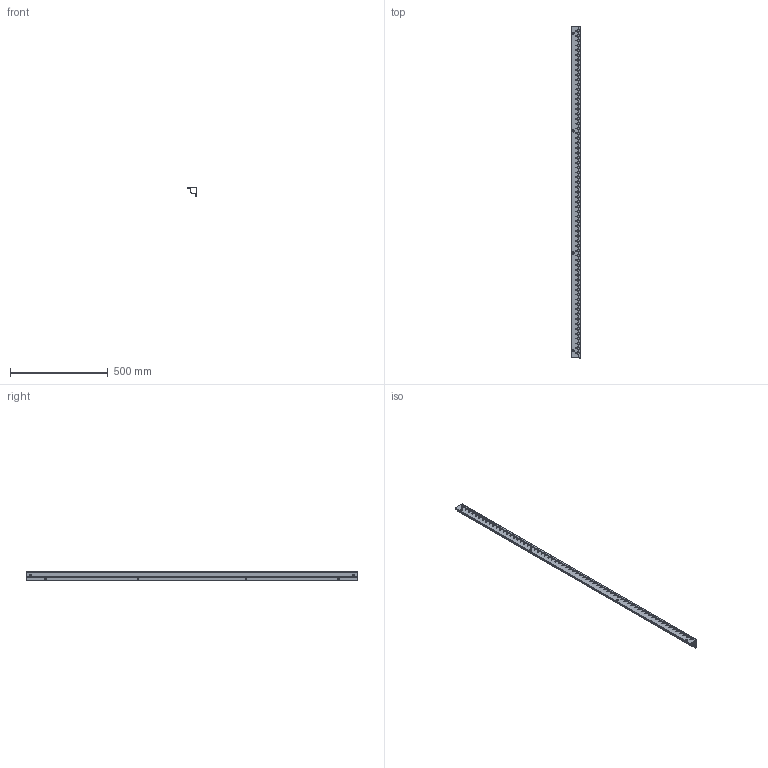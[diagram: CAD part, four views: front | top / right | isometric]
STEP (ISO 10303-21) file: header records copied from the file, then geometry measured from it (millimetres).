
FILE_DESCRIPTION(('Open CASCADE Model'),'2;1');
FILE_NAME('Open CASCADE Shape Model','2025-01-27T17:01:59',('Author'),( 'Open CASCADE'),'Open CASCADE STEP processor 7.8','Open CASCADE 7.8' ,'Unknown');
FILE_SCHEMA(('AUTOMOTIVE_DESIGN { 1 0 10303 214 1 1 1 1 }'));
Length unit declared in the file: millimetre
Products named in the file (2): Compound1; Solid1
Assembly tree (1 placements, depth 2):
  Compound1
    Solid1
Bounding box: 49.7 x 1699 x 49.7 mm (x, y, z)
Volume: 412360.3 mm3; surface area: 629962.3 mm2
Topology: 1 solids, 1 shells, 2693 faces, 7974 edges, 5316 vertices
Faces by surface type: cylinder 1630, plane 1063
Full cylindrical faces by diameter (mm): 4.25 x270, 7 x8, 10 x4, 11 x8
Entity records: 93052 total; most frequent: DIRECTION 16624, CARTESIAN_POINT 15985, ORIENTED_EDGE 15948, EDGE_CURVE 7974, AXIS2_PLACEMENT_3D 5955, VERTEX_POINT 5316, LINE 4714, VECTOR 4714
